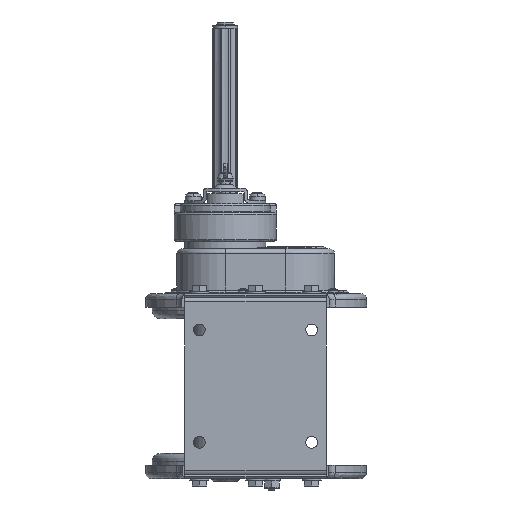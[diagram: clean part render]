
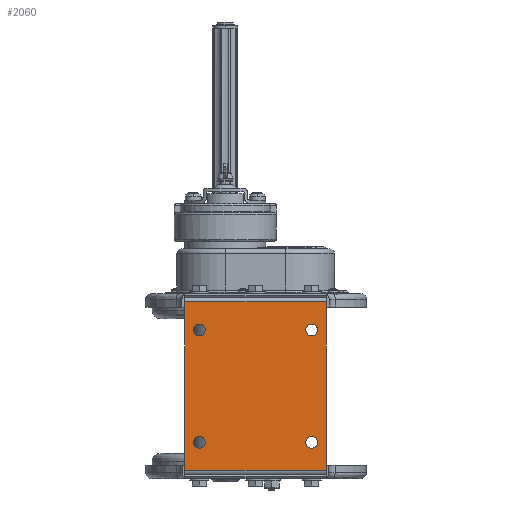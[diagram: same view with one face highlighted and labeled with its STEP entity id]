
A CAD part, front view. The second image highlights one B-rep face of the part: STEP entity #2060.
In plain terms, the highlighted planar face has unit normal (0, -1, 0).
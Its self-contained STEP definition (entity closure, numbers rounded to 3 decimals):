
#2060=ADVANCED_FACE('',(#22283,#22284,#22285,#22286,#22287),#22282,.F.);
#22282=PLANE('',#41347);
#22283=FACE_OUTER_BOUND('',#41348,.T.);
#22284=FACE_BOUND('',#41349,.T.);
#22285=FACE_BOUND('',#41350,.T.);
#22286=FACE_BOUND('',#41351,.T.);
#22287=FACE_BOUND('',#41352,.T.);
#41344=CARTESIAN_POINT('',(-184.621,-15.835,-160.482));
#41345=DIRECTION('',(0.,1.,0.));
#41346=DIRECTION('',(0.,0.,1.));
#41347=AXIS2_PLACEMENT_3D('',#41344,#41345,#41346);
#41348=EDGE_LOOP('',(#55784,#55785,#55786,#55787));
#41349=EDGE_LOOP('',(#55788,#55789));
#41350=EDGE_LOOP('',(#55790,#55791));
#41351=EDGE_LOOP('',(#55792,#55793));
#41352=EDGE_LOOP('',(#55794,#55795));
#55784=ORIENTED_EDGE('',*,*,#64028,.F.);
#55785=ORIENTED_EDGE('',*,*,#59118,.F.);
#55786=ORIENTED_EDGE('',*,*,#64158,.T.);
#55787=ORIENTED_EDGE('',*,*,#59157,.T.);
#55788=ORIENTED_EDGE('',*,*,#64160,.T.);
#55789=ORIENTED_EDGE('',*,*,#64161,.T.);
#55790=ORIENTED_EDGE('',*,*,#64162,.T.);
#55791=ORIENTED_EDGE('',*,*,#64163,.T.);
#55792=ORIENTED_EDGE('',*,*,#64164,.T.);
#55793=ORIENTED_EDGE('',*,*,#64165,.T.);
#55794=ORIENTED_EDGE('',*,*,#64166,.T.);
#55795=ORIENTED_EDGE('',*,*,#64167,.T.);
#59118=EDGE_CURVE('',#68379,#68386,#68387,.T.);
#59157=EDGE_CURVE('',#68656,#68649,#68657,.T.);
#64028=EDGE_CURVE('',#68386,#68649,#101091,.T.);
#64158=EDGE_CURVE('',#68379,#68656,#101963,.T.);
#64160=EDGE_CURVE('',#101975,#101976,#101977,.T.);
#64161=EDGE_CURVE('',#101976,#101975,#101983,.T.);
#64162=EDGE_CURVE('',#101989,#101990,#101991,.T.);
#64163=EDGE_CURVE('',#101990,#101989,#101997,.T.);
#64164=EDGE_CURVE('',#102003,#102004,#102005,.T.);
#64165=EDGE_CURVE('',#102004,#102003,#102011,.T.);
#64166=EDGE_CURVE('',#102017,#102018,#102019,.T.);
#64167=EDGE_CURVE('',#102018,#102017,#102025,.T.);
#68379=VERTEX_POINT('',#109632);
#68386=VERTEX_POINT('',#109637);
#68387=LINE('',#109638,#109639);
#68649=VERTEX_POINT('',#109807);
#68656=VERTEX_POINT('',#109812);
#68657=LINE('',#109813,#109814);
#101091=LINE('',#131101,#131102);
#101963=LINE('',#131674,#131675);
#101975=VERTEX_POINT('',#131689);
#101976=VERTEX_POINT('',#131690);
#101977=CIRCLE('',#131694,5.25);
#101983=CIRCLE('',#131698,5.25);
#101989=VERTEX_POINT('',#131699);
#101990=VERTEX_POINT('',#131700);
#101991=CIRCLE('',#131704,5.25);
#101997=CIRCLE('',#131708,5.25);
#102003=VERTEX_POINT('',#131709);
#102004=VERTEX_POINT('',#131710);
#102005=CIRCLE('',#131714,5.25);
#102011=CIRCLE('',#131718,5.25);
#102017=VERTEX_POINT('',#131719);
#102018=VERTEX_POINT('',#131720);
#102019=CIRCLE('',#131724,5.25);
#102025=CIRCLE('',#131728,5.25);
#109632=CARTESIAN_POINT('',(-48.621,-15.835,-0.482));
#109637=CARTESIAN_POINT('',(-48.621,-15.835,-150.482));
#109638=CARTESIAN_POINT('',(-48.621,-15.835,-0.482));
#109639=VECTOR('',#109640,150.);
#109640=DIRECTION('',(0.,0.,-1.));
#109807=CARTESIAN_POINT('',(-174.621,-15.835,-150.482));
#109812=CARTESIAN_POINT('',(-174.621,-15.835,-0.482));
#109813=CARTESIAN_POINT('',(-174.621,-15.835,-0.482));
#109814=VECTOR('',#109815,150.);
#109815=DIRECTION('',(0.,0.,-1.));
#131101=CARTESIAN_POINT('',(-48.621,-15.835,-150.482));
#131102=VECTOR('',#131103,126.);
#131103=DIRECTION('',(-1.,0.,0.));
#131674=CARTESIAN_POINT('',(-48.621,-15.835,-0.482));
#131675=VECTOR('',#131676,126.);
#131676=DIRECTION('',(-1.,0.,0.));
#131689=CARTESIAN_POINT('',(-161.621,-15.835,-120.232));
#131690=CARTESIAN_POINT('',(-161.621,-15.835,-130.732));
#131691=CARTESIAN_POINT('',(-161.621,-15.835,-125.482));
#131692=DIRECTION('',(0.,1.,0.));
#131693=DIRECTION('',(0.,0.,1.));
#131694=AXIS2_PLACEMENT_3D('',#131691,#131692,#131693);
#131695=CARTESIAN_POINT('',(-161.621,-15.835,-125.482));
#131696=DIRECTION('',(0.,1.,0.));
#131697=DIRECTION('',(0.,0.,1.));
#131698=AXIS2_PLACEMENT_3D('',#131695,#131696,#131697);
#131699=CARTESIAN_POINT('',(-61.621,-15.835,-120.232));
#131700=CARTESIAN_POINT('',(-61.621,-15.835,-130.732));
#131701=CARTESIAN_POINT('',(-61.621,-15.835,-125.482));
#131702=DIRECTION('',(0.,1.,0.));
#131703=DIRECTION('',(0.,0.,1.));
#131704=AXIS2_PLACEMENT_3D('',#131701,#131702,#131703);
#131705=CARTESIAN_POINT('',(-61.621,-15.835,-125.482));
#131706=DIRECTION('',(0.,1.,0.));
#131707=DIRECTION('',(0.,0.,1.));
#131708=AXIS2_PLACEMENT_3D('',#131705,#131706,#131707);
#131709=CARTESIAN_POINT('',(-61.621,-15.835,-20.232));
#131710=CARTESIAN_POINT('',(-61.621,-15.835,-30.732));
#131711=CARTESIAN_POINT('',(-61.621,-15.835,-25.482));
#131712=DIRECTION('',(0.,1.,0.));
#131713=DIRECTION('',(0.,0.,1.));
#131714=AXIS2_PLACEMENT_3D('',#131711,#131712,#131713);
#131715=CARTESIAN_POINT('',(-61.621,-15.835,-25.482));
#131716=DIRECTION('',(0.,1.,0.));
#131717=DIRECTION('',(0.,0.,1.));
#131718=AXIS2_PLACEMENT_3D('',#131715,#131716,#131717);
#131719=CARTESIAN_POINT('',(-161.621,-15.835,-20.232));
#131720=CARTESIAN_POINT('',(-161.621,-15.835,-30.732));
#131721=CARTESIAN_POINT('',(-161.621,-15.835,-25.482));
#131722=DIRECTION('',(0.,1.,0.));
#131723=DIRECTION('',(0.,0.,1.));
#131724=AXIS2_PLACEMENT_3D('',#131721,#131722,#131723);
#131725=CARTESIAN_POINT('',(-161.621,-15.835,-25.482));
#131726=DIRECTION('',(0.,1.,0.));
#131727=DIRECTION('',(0.,0.,1.));
#131728=AXIS2_PLACEMENT_3D('',#131725,#131726,#131727);
